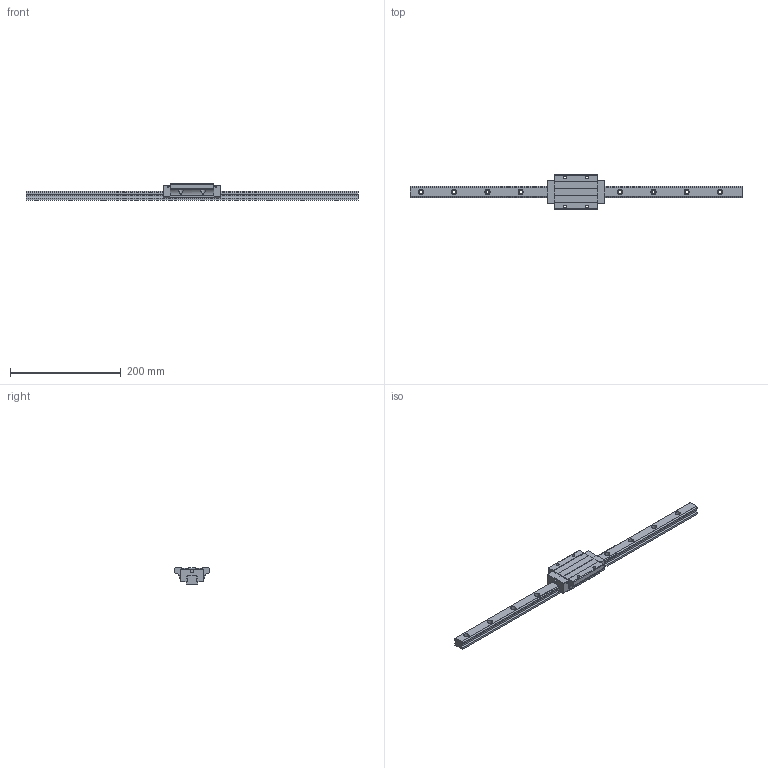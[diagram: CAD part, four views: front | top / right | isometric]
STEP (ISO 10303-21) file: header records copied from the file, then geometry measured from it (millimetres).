
FILE_DESCRIPTION (( 'STEP AP203' ), '1' );
FILE_NAME ('TRH20FE-SU.STEP', '2024-06-26T03:12:12', ( '' ), ( '' ), 'SwSTEP 2.0', 'SolidWorks 2022', '' );
FILE_SCHEMA (( 'CONFIG_CONTROL_DESIGN' ));
Length unit declared in the file: millimetre
Products named in the file (1): TRH20FE-SU
Bounding box: 600 x 63 x 30 mm (x, y, z)
Volume: 268092.7 mm3; surface area: 71907.8 mm2
Topology: 2 solids, 2 shells, 222 faces, 598 edges, 392 vertices
Faces by surface type: cylinder 126, plane 92, sphere 4
Entity records: 7695 total; most frequent: CARTESIAN_POINT 1839, DIRECTION 1242, ORIENTED_EDGE 1188, EDGE_CURVE 594, AXIS2_PLACEMENT_3D 451, VERTEX_POINT 392, VECTOR 340, LINE 340
